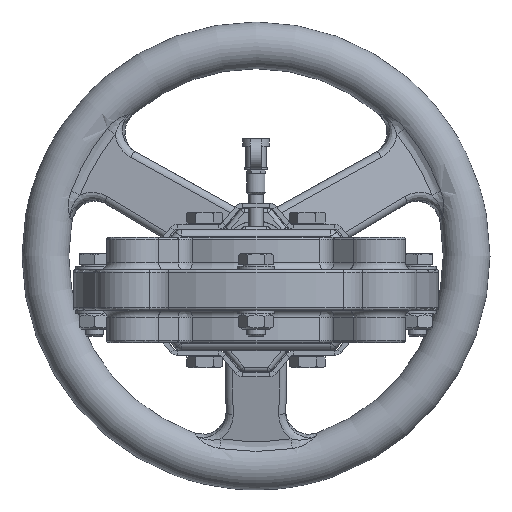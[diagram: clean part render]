
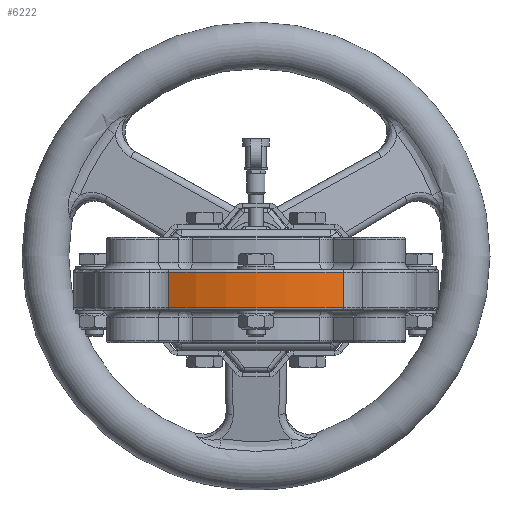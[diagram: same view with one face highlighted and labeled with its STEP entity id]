
A CAD part, front view. The second image highlights one B-rep face of the part: STEP entity #6222.
In plain terms, the highlighted cylindrical face has radius 78 mm (diameter 156 mm), a partial arc.
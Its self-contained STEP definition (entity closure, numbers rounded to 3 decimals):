
#1421=CYLINDRICAL_SURFACE('',#42144,78.);
#4951=CIRCLE('',#42142,78.);
#4952=CIRCLE('',#42143,78.);
#6222=ADVANCED_FACE('',(#9737),#1421,.T.);
#9737=FACE_OUTER_BOUND('',#11922,.T.);
#11922=EDGE_LOOP('',(#15469,#15470,#15471,#15472));
#15469=ORIENTED_EDGE('',*,*,#31123,.F.);
#15470=ORIENTED_EDGE('',*,*,#31122,.F.);
#15471=ORIENTED_EDGE('',*,*,#31124,.F.);
#15472=ORIENTED_EDGE('',*,*,#31125,.F.);
#27271=VERTEX_POINT('',#57201);
#27272=VERTEX_POINT('',#57203);
#27273=VERTEX_POINT('',#57207);
#27274=VERTEX_POINT('',#57209);
#31122=EDGE_CURVE('',#27272,#27271,#36681,.T.);
#31123=EDGE_CURVE('',#27271,#27273,#4951,.T.);
#31124=EDGE_CURVE('',#27274,#27272,#4952,.T.);
#31125=EDGE_CURVE('',#27273,#27274,#36682,.T.);
#36681=LINE('',#57204,#39338);
#36682=LINE('',#57210,#39339);
#39338=VECTOR('',#45973,1.);
#39339=VECTOR('',#45980,1.);
#42142=AXIS2_PLACEMENT_3D('',#57206,#45976,#45977);
#42143=AXIS2_PLACEMENT_3D('',#57208,#45978,#45979);
#42144=AXIS2_PLACEMENT_3D('',#57211,#45981,#45982);
#45973=DIRECTION('',(0.,0.,1.));
#45976=DIRECTION('',(0.,0.,1.));
#45977=DIRECTION('',(0.,-1.,0.));
#45978=DIRECTION('',(0.,0.,-1.));
#45979=DIRECTION('',(0.,-1.,0.));
#45980=DIRECTION('',(0.,0.,-1.));
#45981=DIRECTION('',(0.,0.,-1.));
#45982=DIRECTION('',(0.,1.,0.));
#57201=CARTESIAN_POINT('',(-37.398,-68.45,7.6));
#57203=CARTESIAN_POINT('',(-37.398,-68.45,-7.6));
#57204=CARTESIAN_POINT('',(-37.398,-68.45,8.6));
#57206=CARTESIAN_POINT('',(0.,0.,7.6));
#57207=CARTESIAN_POINT('',(37.398,-68.45,7.6));
#57208=CARTESIAN_POINT('',(0.,0.,-7.6));
#57209=CARTESIAN_POINT('',(37.398,-68.45,-7.6));
#57210=CARTESIAN_POINT('',(37.398,-68.45,8.6));
#57211=CARTESIAN_POINT('',(0.,0.,8.6));
